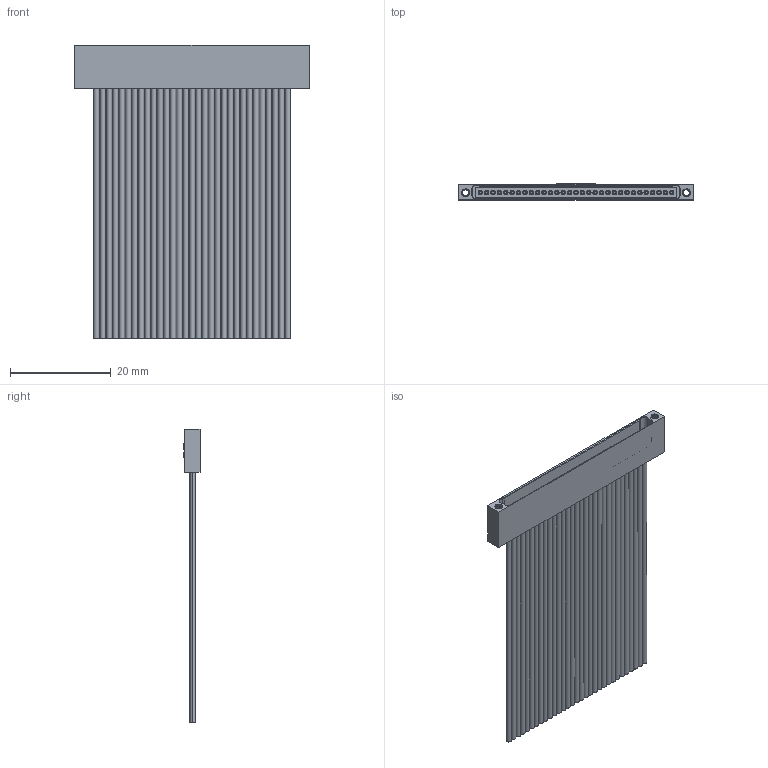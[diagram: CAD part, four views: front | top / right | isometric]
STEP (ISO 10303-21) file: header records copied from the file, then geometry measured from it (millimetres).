
FILE_DESCRIPTION (( 'STEP AP214' ), '1' );
FILE_NAME ('A92001-031 REV A.STEP', '2021-03-01T22:32:51', ( '' ), ( '' ), 'SwSTEP 2.0', 'SolidWorks 2019', '' );
FILE_SCHEMA (( 'AUTOMOTIVE_DESIGN' ));
Length unit declared in the file: inch
Products named in the file (1): A92001-031 REV A
Bounding box: 46.61 x 3.19 x 58.47 mm (x, y, z)
Volume: 2199.8 mm3; surface area: 8384.6 mm2
Topology: 1 solids, 33 shells, 1051 faces, 2306 edges, 1492 vertices
Faces by surface type: cylinder 500, plane 363, cone 68, torus 63, bspline 57
Entity records: 48818 total; most frequent: CARTESIAN_POINT 11517, DIRECTION 5169, ORIENTED_EDGE 4612, EDGE_CURVE 2306, AXIS2_PLACEMENT_3D 2090, VERTEX_POINT 1492, EDGE_LOOP 1288, CIRCLE 1095
